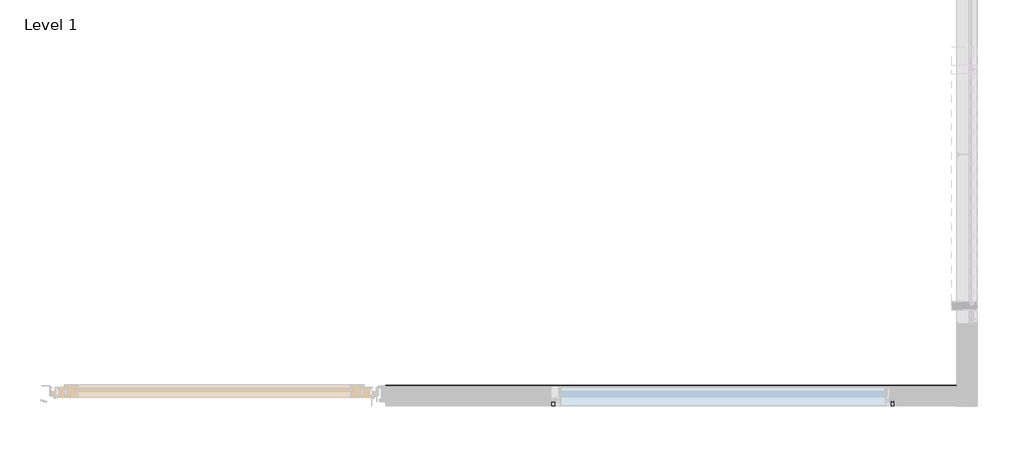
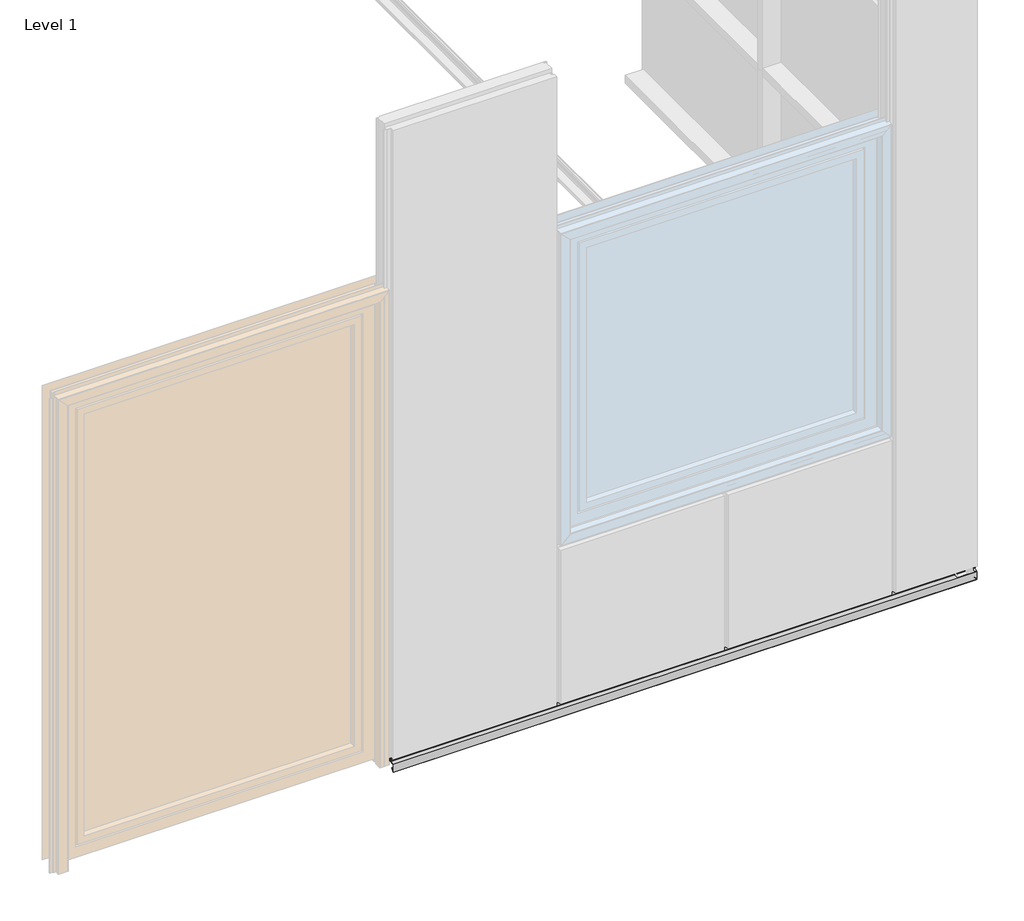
# One storey, part 7 of 8: 1 beam.
"""IFC4 building model written with IfcOpenShell, lengths in millimetres."""

import ifcopenshell
import ifcopenshell.guid

model = None  # the IFC model being written
_history = None  # IfcOwnerHistory: only IFC2X3 demands one
_inside = {}  # id of a spatial element -> (the spatial element, [elements in it])
_under = {}  # id of a project, library or spatial element -> (it, [spatial elements below it])
_declared = {}  # id of a project -> (the project, [libraries it declares])
_typed = {}  # id of a type object -> (the type object, [elements of that type])
_made_of = {}  # id of a material, layer set ... -> (it, [elements and type objects made of it])


def new_model(schema):
    """Start an empty IFC model of exactly this schema.

    Asked for "IFC4X3", IfcOpenShell would pick the latest addendum, in which some entities
    have other attributes; the version numbers below select the first issue.
    IFC2X3 requires an IfcOwnerHistory on every rooted entity: one is made here for all.
    """
    global model, _history
    if schema == "IFC4X3":
        model = ifcopenshell.file(schema_version=(4, 3, 0, 0))
    else:
        model = ifcopenshell.file(schema=schema)
    _inside.clear()
    _under.clear()
    _declared.clear()
    _typed.clear()
    _made_of.clear()
    _history = None
    if model.schema == "IFC2X3":
        org = make("IfcOrganization", Name="unknown")
        user = make(
            "IfcPersonAndOrganization",
            ThePerson=make("IfcPerson", FamilyName="unknown"),
            TheOrganization=org,
        )
        app = make(
            "IfcApplication",
            ApplicationDeveloper=org,
            Version="unknown",
            ApplicationFullName="unknown",
            ApplicationIdentifier="unknown",
        )
        _history = make(
            "IfcOwnerHistory",
            OwningUser=user,
            OwningApplication=app,
            ChangeAction="ADDED",
            CreationDate=0,
        )
    return model


def make(cls, **values):
    """One entity of the class cls with the attributes given. An attribute that is None is left unset."""
    return model.create_entity(
        cls, **{name: value for name, value in values.items() if value is not None}
    )


def rooted(cls, **values):
    """An entity with a GlobalId (a new one), such as an element, a storey or a relation."""
    return make(cls, GlobalId=ifcopenshell.guid.new(), OwnerHistory=_history, **values)


def si_unit(unit_type, name, prefix=None):
    """IfcSIUnit, for example si_unit("LENGTHUNIT", "METRE", prefix="MILLI")."""
    return make("IfcSIUnit", UnitType=unit_type, Prefix=prefix, Name=name)


def assignment(units):
    """IfcUnitAssignment: the units of a project."""
    return None if units is None else make("IfcUnitAssignment", Units=units)


def point(xyz):
    """IfcCartesianPoint."""
    return None if xyz is None else make("IfcCartesianPoint", Coordinates=xyz)


def direction(xyz):
    """IfcDirection."""
    return None if xyz is None else make("IfcDirection", DirectionRatios=xyz)


def frame(location, z_axis=None, x_axis=None):
    """IfcAxis2Placement3D, a coordinate frame: its origin and axes. An axis left out is left unset."""
    return make(
        "IfcAxis2Placement3D",
        Location=point(location),
        Axis=direction(z_axis),
        RefDirection=direction(x_axis),
    )


def origin():
    """The frame at (0, 0, 0) with its axes left unset."""
    return frame((0.0, 0.0, 0.0))


def place(relative_to, where):
    """IfcLocalPlacement: puts the frame where relative to a parent placement (None: the world)."""
    return make(
        "IfcLocalPlacement", PlacementRelTo=relative_to, RelativePlacement=where
    )


def context(
    kind, dimensions, precision=None, world=None, true_north=None, identifier=None
):
    """IfcGeometricRepresentationContext, for example the 3D "Model" context."""
    return make(
        "IfcGeometricRepresentationContext",
        ContextIdentifier=identifier,
        ContextType=kind,
        CoordinateSpaceDimension=dimensions,
        Precision=precision,
        WorldCoordinateSystem=world,
        TrueNorth=true_north,
    )


def project(units=None, contexts=None):
    """IfcProject with its units and contexts."""
    return rooted(
        "IfcProject",
        Name="project",
        RepresentationContexts=contexts,
        UnitsInContext=assignment(units),
    )


def spatial(cls, under=None, at=None, **own):
    """A site, building, storey or space (cls), placed at a placement, below another one or the project."""
    s = rooted(cls, ObjectPlacement=at, **own)
    if under is not None:
        _under.setdefault(under.id(), (under, []))[1].append(s)
    return s


def circle_curve(where, radius):
    """IfcCircle in the frame where."""
    return make("IfcCircle", Position=where, Radius=radius)


def ellipse_curve(where, semi_axis1, semi_axis2):
    """IfcEllipse in the frame where."""
    return make(
        "IfcEllipse", Position=where, SemiAxis1=semi_axis1, SemiAxis2=semi_axis2
    )


def faces_of(points, faces, orient=None, outer=None):
    """IfcFace entities. A face is a list of loops; a loop is a list of indices into points, from 0.

    orient and outer hold one flag for each loop. By default every Orientation is true, the
    first loop of a face is its IfcFaceOuterBound and the others are IfcFaceBound.
    """
    made = []
    for i, loops in enumerate(faces):
        bounds = []
        for j, loop in enumerate(loops):
            is_outer = j == 0 if outer is None else outer[i][j]
            bounds.append(
                make(
                    "IfcFaceOuterBound" if is_outer else "IfcFaceBound",
                    Bound=make("IfcPolyLoop", Polygon=[points[k] for k in loop]),
                    Orientation=True if orient is None else orient[i][j],
                )
            )
        made.append(make("IfcFace", Bounds=bounds))
    return made


def faceted_brep(points, faces, orient=None, outer=None, voids=None):
    """IfcFacetedBrep: a solid bounded by flat faces; with voids (closed shells), ...WithVoids."""
    shared = [point(p) for p in points]
    hull = make("IfcClosedShell", CfsFaces=faces_of(shared, faces, orient, outer))
    if voids is None:
        return make("IfcFacetedBrep", Outer=hull)
    return make(
        "IfcFacetedBrepWithVoids",
        Outer=hull,
        Voids=[
            make(cls, CfsFaces=faces_of(shared, fs, o, b)) for cls, fs, o, b in voids
        ],
    )


def shape(context_of_items, identifier, shape_type, items):
    """IfcShapeRepresentation: the items that make up one representation, for example the "Body"."""
    return make(
        "IfcShapeRepresentation",
        ContextOfItems=context_of_items,
        RepresentationIdentifier=identifier,
        RepresentationType=shape_type,
        Items=items,
    )


def made_of(thing, what):
    """Note that an element or type object is made of a material, layer set ...; save() writes the relation."""
    if what is not None:
        _made_of.setdefault(what.id(), (what, []))[1].append(thing)
    return thing


def element(
    cls,
    number,
    at=None,
    inside=None,
    cuts=None,
    type_object=None,
    material=None,
    context=None,
    identifier="Body",
    shape_type=None,
    held_by="IfcProductDefinitionShape",
    body=None,
    shapes=None,
    **own,
):
    """One element of the class cls, such as IfcWall. Its Tag is "e" and its number.

    at: its placement. inside: the storey or other place that contains it. cuts: it is an
    opening in that element (IfcRelVoidsElement). A single representation is given by context,
    identifier, shape_type and body (its items); several are given by shapes. held_by: the class
    of the entity that holds the representations. save() writes the other relations.
    """
    e = rooted(cls, Tag="e%d" % number, ObjectPlacement=at, **own)
    if body is not None:
        shapes = [shape(context, identifier, shape_type, body)]
    if shapes is not None:
        e.Representation = make(held_by, Representations=shapes)
    if inside is not None:
        _inside.setdefault(inside.id(), (inside, []))[1].append(e)
    if cuts is not None:
        rooted(
            "IfcRelVoidsElement", RelatingBuildingElement=cuts, RelatedOpeningElement=e
        )
    if type_object is not None:
        _typed.setdefault(type_object.id(), (type_object, []))[1].append(e)
    return made_of(e, material)


def aggregate(whole, parts):
    """IfcRelAggregates: a whole, such as a stair, and the parts it consists of."""
    return rooted("IfcRelAggregates", RelatingObject=whole, RelatedObjects=parts)


def save(model, path):
    """Write the relations noted so far, then the file.

    IfcRelAggregates (storeys below a building ...), IfcRelContainedInSpatialStructure (elements
    in a storey), IfcRelDefinesByType, IfcRelAssociatesMaterial and IfcRelDeclares: one each for
    every whole, place, type object, material and project.
    """
    for whole, parts in _under.values():
        aggregate(whole, parts)
    for where, things in _inside.values():
        rooted(
            "IfcRelContainedInSpatialStructure",
            RelatedElements=things,
            RelatingStructure=where,
        )
    for kind, things in _typed.values():
        rooted("IfcRelDefinesByType", RelatedObjects=things, RelatingType=kind)
    for what, things in _made_of.values():
        rooted("IfcRelAssociatesMaterial", RelatedObjects=things, RelatingMaterial=what)
    for by, libraries in _declared.values():
        rooted("IfcRelDeclares", RelatingContext=by, RelatedDefinitions=libraries)
    model.write(path)


def plane_surface(at):
    """IfcPlane: the flat surface through the origin of the frame at, square to its z axis."""
    return make("IfcPlane", Position=at)


def cylinder_surface(at, radius):
    """IfcCylindricalSurface: all points at the distance radius from the z axis of the frame at."""
    return make("IfcCylindricalSurface", Position=at, Radius=radius)


def advanced_brep(points, edges, surfaces, faces):
    """IfcAdvancedBrep: a solid bounded by faces that lie on surfaces and meet in shared edges.

    An edge is (start, end): straight between two places in points (the first is 0);
    or (start, end, curve); or (start, end, curve, False) where it runs against its curve.
    A face is (place in surfaces, loops), or (place, loops, False) where it looks against
    its surface's normal. A loop lists edges by number (the first is 1), with a minus sign
    where the edge is run from its end to its start. The first loop is the outer one.
    """
    corners = [point(p) for p in points]
    vertices = [make("IfcVertexPoint", VertexGeometry=c) for c in corners]
    made = []
    for start, end, *more in edges:
        made.append(
            make(
                "IfcEdgeCurve",
                EdgeStart=vertices[start],
                EdgeEnd=vertices[end],
                EdgeGeometry=more[0] if more else make("IfcPolyline", Points=[corners[start], corners[end]]),
                SameSense=more[1] if len(more) > 1 else True,
            )
        )
    hull = []
    for where, loops, *sense in faces:
        bounds = []
        for j, loop in enumerate(loops):
            ring = [make("IfcOrientedEdge", EdgeElement=made[abs(k) - 1], Orientation=k > 0) for k in loop]
            bounds.append(
                make(
                    "IfcFaceOuterBound" if j == 0 else "IfcFaceBound",
                    Bound=make("IfcEdgeLoop", EdgeList=ring),
                    Orientation=True,
                )
            )
        hull.append(make("IfcAdvancedFace", Bounds=bounds, FaceSurface=surfaces[where], SameSense=sense[0] if sense else True))
    return make("IfcAdvancedBrep", Outer=make("IfcClosedShell", CfsFaces=hull))


model = new_model("IFC4")

# Units and contexts
model_context = context("Model", 3, world=origin())
ifc_project = project(units=[si_unit("LENGTHUNIT", "METRE", prefix="MILLI")], contexts=[model_context])

# Site, building, storey
site = spatial("IfcSite", under=ifc_project)
building = spatial("IfcBuilding", under=site)
storey = spatial("IfcBuildingStorey", under=building, Name="Level 1", Elevation=0.0)

# Beam
placement = place(None, origin())
element("IfcBeam", 1, ObjectType="QO-V-02_01 Base : Base detail", at=placement, inside=storey, context=model_context, shape_type="SolidModel", body=[
    faceted_brep([(1.1864867, 8054.9, 162.7), (1.1864867, 8054.9, 137.7), (1.1864867, 7999.9, 132.8881235), (1.1864867, 7999.9, 82.8881235), (1.1864867, 8017.5776695, 100.565793), (1.1864867, 8017.0119841, 101.1314785), (1.1864867, 8000.7, 84.8194944), (1.1864867, 8000.7, 132.1550586), (1.1864867, 8055.7, 136.9669351), (1.1864867, 8055.7, 161.9), (1.1864867, 8056.9, 161.9), (1.1864867, 8056.9, 136.9), (1.1864867, 8118.9315596, 136.9), (1.1864867, 8121.4120749, 157.1021753), (1.1864867, 8120.6180379, 157.1996708), (1.1864867, 8118.2237794, 137.7), (1.1864867, 8057.7, 137.7), (1.1864867, 8057.7, 162.7), (-3488.0000003, 8054.9, 162.7), (-3488.0000003, 8057.7, 162.7), (-3488.0000003, 8057.7, 137.7), (-3488.0000003, 8118.2237794, 137.7), (-3488.0000003, 8120.6180379, 157.1996708), (-3488.0000003, 8121.4120749, 157.1021753), (-3488.0000003, 8118.9315596, 136.9), (-3488.0000003, 8056.9, 136.9), (-3488.0000003, 8056.9, 161.9), (-3488.0000003, 8055.7, 161.9), (-3488.0000003, 8055.7, 136.9669351), (-3488.0000003, 8000.7, 132.1550586), (-3488.0000003, 8000.7, 84.8194944), (-3488.0000003, 8017.0119841, 101.1314785), (-3488.0000003, 8017.5776695, 100.565793), (-3488.0000003, 7999.9, 82.8881235), (-3488.0000003, 7999.9, 132.8881235), (-3488.0000003, 8054.9, 137.7)], [[[0, 1, 2, 3, 4, 5, 6, 7, 8, 9, 10, 11, 12, 13, 14, 15, 16, 17]], [[18, 19, 20, 21, 22, 23, 24, 25, 26, 27, 28, 29, 30, 31, 32, 33, 34, 35]], [[9, 8, 28, 27]], [[10, 9, 27, 26]], [[11, 10, 26, 25]], [[12, 11, 25, 24]], [[13, 12, 24, 23]], [[14, 13, 23, 22]], [[15, 14, 22, 21]], [[16, 15, 21, 20]], [[17, 16, 20, 19]], [[0, 17, 19, 18]], [[1, 0, 18, 35]], [[2, 1, 35, 34]], [[3, 2, 34, 33]], [[4, 3, 33, 32]], [[5, 4, 32, 31]], [[6, 5, 31, 30]], [[7, 6, 30, 29]], [[8, 7, 29, 28]]]),
    faceted_brep([(0.1335928, 7999.9, 82.8881235), (-3488.0000003, 7999.9, 82.8881235), (-3488.0000003, 8017.5776695, 100.565793), (-17.5440767, 8017.5776695, 100.565793), (-3488.0000003, 8054.9, 162.7), (-3488.0000003, 8057.7, 162.7), (-3488.0000003, 8057.7, 137.7), (-3488.0000003, 8118.2237794, 137.7), (-3488.0000003, 8120.6180379, 157.1996708), (-3488.0000003, 8121.4120749, 157.1021753), (-3488.0000003, 8118.9315596, 136.9), (-3488.0000003, 8056.9, 136.9), (-3488.0000003, 8056.9, 161.9), (-3488.0000003, 8055.7, 161.9), (-3488.0000003, 8055.7, 136.9669351), (-3488.0000003, 8000.7, 132.1550586), (-3488.0000003, 8000.7, 84.8194944), (-3488.0000003, 8017.0119841, 101.1314785), (-3488.0000003, 7999.9, 132.8881235), (-3488.0000003, 8054.9, 137.7), (-57.6664072, 8057.7, 162.7), (-54.8664072, 8054.9, 162.7), (-57.6664072, 8057.7, 137.7), (-118.1901866, 8118.2237794, 137.7), (-120.5844451, 8120.6180379, 157.1996708), (-121.3784821, 8121.4120749, 157.1021753), (-118.8979668, 8118.9315596, 136.9), (-56.8664072, 8056.9, 136.9), (-56.8664072, 8056.9, 161.9), (-55.6664072, 8055.7, 161.9), (-55.6664072, 8055.7, 136.9669351), (-0.6664072, 8000.7, 132.1550586), (-0.6664072, 8000.7, 84.8194944), (-16.9783913, 8017.0119841, 101.1314785), (0.1335928, 7999.9, 132.8881235), (-54.8664072, 8054.9, 137.7)], [[[0, 1, 2, 3]], [[4, 5, 6, 7, 8, 9, 10, 11, 12, 13, 14, 15, 16, 17, 2, 1, 18, 19]], [[20, 5, 4, 21]], [[22, 6, 5, 20]], [[23, 7, 6, 22]], [[24, 8, 7, 23]], [[25, 9, 8, 24]], [[26, 10, 9, 25]], [[27, 11, 10, 26]], [[28, 12, 11, 27]], [[29, 13, 12, 28]], [[30, 14, 13, 29]], [[31, 15, 14, 30]], [[32, 16, 15, 31]], [[33, 17, 16, 32]], [[3, 2, 17, 33]], [[34, 18, 1, 0]], [[35, 19, 18, 34]], [[21, 4, 19, 35]], [[30, 29, 28, 27, 26, 25, 24, 23, 22, 20, 21, 35, 34, 0, 3, 33, 32, 31]]]),
    advanced_brep(
    [(-3488.0000003, 8034.5160805, 149.5524124), (-3488.0000003, 8025.4027713, 149.5524124), (-3488.0000003, 8025.4027713, 141.8841366), (-3488.0000003, 8024.4783623, 140.3521612), (-3488.0000003, 8023.9029396, 140.5123199), (-3488.0000003, 8023.9029396, 159.8923428), (-3488.0000003, 8024.4783623, 160.0525015), (-3488.0000003, 8025.4027713, 158.5205261), (-3488.0000003, 8025.4027713, 150.8524124), (-3488.0000003, 8034.5160805, 150.8524124), (-3488.0000003, 8034.5160805, 152.3674381), (-3488.0000003, 8035.8759407, 150.5546092), (-3488.0000003, 8036.6759407, 150.5546092), (-3488.0000003, 8036.6759407, 152.5561345), (-3488.0000003, 8034.217153, 152.5561345), (-3488.0000003, 8034.217153, 151.4879019), (-3488.0000003, 8026.4392087, 151.4879019), (-3488.0000003, 8025.9150519, 151.9872786), (-3488.0000003, 8025.9150519, 162.7010847), (-3488.0000003, 8036.090378, 162.7010847), (-3488.0000003, 8036.690378, 162.1010847), (-3488.0000003, 8036.690378, 156.562561), (-3488.0000003, 8039.5058207, 156.562561), (-3488.0000003, 8039.5058207, 159.161162), (-3488.0000003, 8043.7493822, 157.6224126), (-3488.0000003, 8040.2004498, 154.5991903), (-3488.0000003, 8040.2004498, 145.8056345), (-3488.0000003, 8043.7493822, 142.7824121), (-3488.0000003, 8039.5058207, 141.2436628), (-3488.0000003, 8039.5058207, 143.8422638), (-3488.0000003, 8036.690378, 143.8422638), (-3488.0000003, 8036.690378, 138.3037401), (-3488.0000003, 8036.090378, 137.7037401), (-3488.0000003, 8025.9150519, 137.7037401), (-3488.0000003, 8025.9150519, 148.4175462), (-3488.0000003, 8026.4392087, 148.9169229), (-3488.0000003, 8034.217153, 148.9169229), (-3488.0000003, 8034.217153, 147.8486903), (-3488.0000003, 8036.6759407, 147.8486903), (-3488.0000003, 8036.6759407, 149.8502156), (-3488.0000003, 8035.8759407, 149.8502156), (-3488.0000003, 8034.5160805, 148.0373867), (1.1864867, 8034.5160805, 149.5524124), (1.1864867, 8034.5160805, 148.0373867), (1.1864867, 8035.8759407, 149.8502156), (1.1864867, 8036.6759407, 149.8502156), (1.1864867, 8036.6759407, 147.8486903), (1.1864867, 8034.217153, 147.8486903), (1.1864867, 8034.217153, 148.9169229), (1.1864867, 8026.4392087, 148.9169229), (1.1864867, 8025.9150519, 148.4175462), (1.1864867, 8025.9150519, 137.7037401), (1.1864867, 8036.090378, 137.7037401), (1.1864867, 8036.690378, 138.3037401), (1.1864867, 8036.690378, 143.8422638), (1.1864867, 8039.5058207, 143.8422638), (1.1864867, 8039.5058207, 141.2436628), (1.1864867, 8043.7493822, 142.7824121), (1.1864867, 8040.2004498, 145.8056345), (1.1864867, 8040.2004498, 154.5991903), (1.1864867, 8043.7493822, 157.6224126), (1.1864867, 8039.5058207, 159.161162), (1.1864867, 8039.5058207, 156.562561), (1.1864867, 8036.690378, 156.562561), (1.1864867, 8036.690378, 162.1010847), (1.1864867, 8036.090378, 162.7010847), (1.1864867, 8025.9150519, 162.7010847), (1.1864867, 8025.9150519, 151.9872786), (1.1864867, 8026.4392087, 151.4879019), (1.1864867, 8034.217153, 151.4879019), (1.1864867, 8034.217153, 152.5561345), (1.1864867, 8036.6759407, 152.5561345), (1.1864867, 8036.6759407, 150.5546092), (1.1864867, 8035.8759407, 150.5546092), (1.1864867, 8034.5160805, 152.3674381), (1.1864867, 8034.5160805, 150.8524124), (1.1864867, 8025.4027713, 150.8524124), (1.1864867, 8025.4027713, 158.5205261), (1.1864867, 8024.4783623, 160.0525015), (1.1864867, 8023.9029396, 159.8923428), (1.1864867, 8023.9029396, 140.5123199), (1.1864867, 8024.4783623, 140.3521612), (1.1864867, 8025.4027713, 141.8841366), (1.1864867, 8025.4027713, 149.5524124)],
    [
        (0, 1),
        (1, 2),
        (2, 3),
        (3, 4, circle_curve(frame((-3488.0000003, 8024.2129396, 140.5123199), z_axis=(-1.0, 0.0, 0.0), x_axis=(0.0, 0.0, 1.0)), 0.31)),
        (4, 5),
        (5, 6, circle_curve(frame((-3488.0000003, 8024.2129396, 159.8923428), z_axis=(-1.0, 0.0, 0.0), x_axis=(0.0, 0.0, 1.0)), 0.31)),
        (6, 7),
        (7, 8),
        (8, 9),
        (9, 10),
        (10, 11),
        (11, 12),
        (12, 13),
        (13, 14),
        (14, 15),
        (15, 16),
        (16, 17, circle_curve(frame((-3488.0000003, 8026.4150144, 151.9872786), z_axis=(-1.0, 0.0, 0.0), x_axis=(0.0, 0.0, -1.0)), 0.4999625)),
        (17, 18),
        (18, 19),
        (19, 20, circle_curve(frame((-3488.0000003, 8036.090378, 162.1010847), z_axis=(-1.0, 0.0, 0.0), x_axis=(0.0, 0.0, -1.0)), 0.6)),
        (20, 21),
        (21, 22),
        (22, 23),
        (23, 24),
        (24, 25),
        (25, 26),
        (26, 27),
        (27, 28),
        (28, 29),
        (29, 30),
        (30, 31),
        (31, 32, circle_curve(frame((-3488.0000003, 8036.090378, 138.3037401), z_axis=(-1.0, 0.0, 0.0), x_axis=(0.0, 0.0, -1.0)), 0.6)),
        (32, 33),
        (33, 34),
        (34, 35, circle_curve(frame((-3488.0000003, 8026.4150144, 148.4175462), z_axis=(-1.0, 0.0, 0.0), x_axis=(0.0, 0.0, -1.0)), 0.4999625)),
        (35, 36),
        (36, 37),
        (37, 38),
        (38, 39),
        (39, 40),
        (40, 41),
        (41, 0),
        (42, 43),
        (43, 44),
        (44, 45),
        (45, 46),
        (46, 47),
        (47, 48),
        (48, 49),
        (49, 50, circle_curve(frame((1.1864867, 8026.4150144, 148.4175462), z_axis=(1.0, 0.0, 0.0), x_axis=(0.0, 0.0, -1.0)), 0.4999625)),
        (50, 51),
        (51, 52),
        (52, 53, circle_curve(frame((1.1864867, 8036.090378, 138.3037401), z_axis=(1.0, 0.0, 0.0), x_axis=(0.0, 0.0, -1.0)), 0.6)),
        (53, 54),
        (54, 55),
        (55, 56),
        (56, 57),
        (57, 58),
        (58, 59),
        (59, 60),
        (60, 61),
        (61, 62),
        (62, 63),
        (63, 64),
        (64, 65, circle_curve(frame((1.1864867, 8036.090378, 162.1010847), z_axis=(1.0, 0.0, 0.0), x_axis=(0.0, 0.0, -1.0)), 0.6)),
        (65, 66),
        (66, 67),
        (67, 68, circle_curve(frame((1.1864867, 8026.4150144, 151.9872786), z_axis=(1.0, 0.0, 0.0), x_axis=(0.0, 0.0, -1.0)), 0.4999625)),
        (68, 69),
        (69, 70),
        (70, 71),
        (71, 72),
        (72, 73),
        (73, 74),
        (74, 75),
        (75, 76),
        (76, 77),
        (77, 78),
        (78, 79, circle_curve(frame((1.1864867, 8024.2129396, 159.8923428), z_axis=(1.0, 0.0, 0.0), x_axis=(0.0, 0.0, 1.0)), 0.31)),
        (79, 80),
        (80, 81, circle_curve(frame((1.1864867, 8024.2129396, 140.5123199), z_axis=(1.0, 0.0, 0.0), x_axis=(0.0, 0.0, 1.0)), 0.31)),
        (81, 82),
        (82, 83),
        (83, 42),
        (0, 42),
        (83, 1),
        (82, 2),
        (81, 3),
        (80, 4),
        (79, 5),
        (78, 6),
        (77, 7),
        (76, 8),
        (75, 9),
        (74, 10),
        (73, 11),
        (72, 12),
        (71, 13),
        (70, 14),
        (69, 15),
        (68, 16),
        (67, 17),
        (66, 18),
        (65, 19),
        (64, 20),
        (63, 21),
        (62, 22),
        (61, 23),
        (60, 24),
        (59, 25),
        (58, 26),
        (57, 27),
        (56, 28),
        (55, 29),
        (54, 30),
        (53, 31),
        (52, 32),
        (51, 33),
        (50, 34),
        (49, 35),
        (48, 36),
        (47, 37),
        (46, 38),
        (45, 39),
        (44, 40),
        (43, 41),
    ],
    [
        plane_surface(frame((-3488.0000003, 7999.9, 162.7), z_axis=(-1.0, 0.0, 0.0), x_axis=(0.0, 0.0, 1.0))),
        plane_surface(frame((1.1864867, 7999.9, 162.7), z_axis=(1.0, 0.0, 0.0), x_axis=(0.0, 0.0, 1.0))),
        plane_surface(frame((-3488.0000003, 8034.5160805, 149.5524124), z_axis=(0.0, 0.0, -1.0), x_axis=(1.0, 0.0, 0.0))),
        plane_surface(frame((-3488.0000003, 8025.4027713, 149.5524124), z_axis=(0.0, 1.0, 0.0), x_axis=(1.0, 0.0, 0.0))),
        plane_surface(frame((-3488.0000003, 8025.4027713, 141.8841366), z_axis=(0.0, 0.8562022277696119, -0.5166408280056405), x_axis=(1.0, 0.0, 0.0))),
        cylinder_surface(frame((-3488.0000003, 8024.2129396, 140.5123199), z_axis=(-1.0, 0.0, 0.0), x_axis=(0.0, 0.0, 1.0)), 0.31),
        plane_surface(frame((-3488.0000003, 8023.9029396, 140.5123199), z_axis=(0.0, -1.0, 0.0), x_axis=(1.0, 0.0, 0.0))),
        cylinder_surface(frame((-3488.0000003, 8024.2129396, 159.8923428), z_axis=(-1.0, 0.0, 0.0), x_axis=(0.0, 0.0, 1.0)), 0.31),
        plane_surface(frame((-3488.0000003, 8024.4783623, 160.0525015), z_axis=(0.0, 0.8562022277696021, 0.5166408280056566), x_axis=(1.0, 0.0, 0.0))),
        plane_surface(frame((-3488.0000003, 8025.4027713, 158.5205261), z_axis=(0.0, 1.0, 0.0), x_axis=(1.0, 0.0, 0.0))),
        plane_surface(frame((-3488.0000003, 8025.4027713, 150.8524124), z_axis=(0.0, 0.0, 1.0), x_axis=(1.0, 0.0, 0.0))),
        plane_surface(frame((-3488.0000003, 8034.5160805, 150.8524124), z_axis=(0.0, -1.0, 0.0), x_axis=(1.0, 0.0, 0.0))),
        plane_surface(frame((-3488.0000003, 8034.5160805, 152.3674381), z_axis=(0.0, 0.7999494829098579, 0.6000673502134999), x_axis=(1.0, 0.0, 0.0))),
        plane_surface(frame((-3488.0000003, 8035.8759407, 150.5546092), z_axis=(0.0, 0.0, 1.0), x_axis=(1.0, 0.0, 0.0))),
        plane_surface(frame((-3488.0000003, 8036.6759407, 150.5546092), z_axis=(0.0, -1.0, 0.0), x_axis=(1.0, 0.0, 0.0))),
        plane_surface(frame((-3488.0000003, 8036.6759407, 152.5561345), z_axis=(0.0, 0.0, -1.0), x_axis=(1.0, 0.0, 0.0))),
        plane_surface(frame((-3488.0000003, 8034.217153, 152.5561345), z_axis=(0.0, 1.0, 0.0), x_axis=(1.0, 0.0, 0.0))),
        plane_surface(frame((-3488.0000003, 8034.217153, 151.4879019), z_axis=(0.0, 0.0, -1.0), x_axis=(1.0, 0.0, 0.0))),
        cylinder_surface(frame((-3488.0000003, 8026.4150144, 151.9872786), z_axis=(-1.0, 0.0, 0.0), x_axis=(0.0, 0.0, -1.0)), 0.4999625),
        plane_surface(frame((-3488.0000003, 8025.9150519, 151.9872786), z_axis=(0.0, -1.0, 0.0), x_axis=(1.0, 0.0, 0.0))),
        plane_surface(frame((-3488.0000003, 8025.9150519, 162.7010847), z_axis=(0.0, 0.0, 1.0), x_axis=(1.0, 0.0, 0.0))),
        cylinder_surface(frame((-3488.0000003, 8036.090378, 162.1010847), z_axis=(-1.0, 0.0, 0.0), x_axis=(0.0, 0.0, -1.0)), 0.6),
        plane_surface(frame((-3488.0000003, 8036.690378, 162.1010847), z_axis=(0.0, 1.0, 0.0), x_axis=(1.0, 0.0, 0.0))),
        plane_surface(frame((-3488.0000003, 8036.690378, 156.562561), z_axis=(0.0, 0.0, 1.0), x_axis=(1.0, 0.0, 0.0))),
        plane_surface(frame((-3488.0000003, 8039.5058207, 156.562561), z_axis=(0.0, -1.0, 0.0), x_axis=(1.0, 0.0, 0.0))),
        plane_surface(frame((-3488.0000003, 8039.5058207, 159.161162), z_axis=(0.0, 0.3408890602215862, 0.9401035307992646), x_axis=(1.0, 0.0, 0.0))),
        plane_surface(frame((-3488.0000003, 8043.7493822, 157.6224126), z_axis=(0.0, 0.6484736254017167, -0.7612371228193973), x_axis=(1.0, 0.0, 0.0))),
        plane_surface(frame((-3488.0000003, 8040.2004498, 154.5991903), z_axis=(0.0, 1.0, 0.0), x_axis=(1.0, 0.0, 0.0))),
        plane_surface(frame((-3488.0000003, 8040.2004498, 145.8056345), z_axis=(0.0, 0.6484736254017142, 0.7612371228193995), x_axis=(1.0, 0.0, 0.0))),
        plane_surface(frame((-3488.0000003, 8043.7493822, 142.7824121), z_axis=(0.0, 0.34088906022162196, -0.9401035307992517), x_axis=(1.0, 0.0, 0.0))),
        plane_surface(frame((-3488.0000003, 8039.5058207, 141.2436628), z_axis=(0.0, -1.0, 0.0), x_axis=(1.0, 0.0, 0.0))),
        plane_surface(frame((-3488.0000003, 8039.5058207, 143.8422638), z_axis=(0.0, 0.0, -1.0), x_axis=(1.0, 0.0, 0.0))),
        plane_surface(frame((-3488.0000003, 8036.690378, 143.8422638), z_axis=(0.0, 1.0, 0.0), x_axis=(1.0, 0.0, 0.0))),
        cylinder_surface(frame((-3488.0000003, 8036.090378, 138.3037401), z_axis=(-1.0, 0.0, 0.0), x_axis=(0.0, 0.0, -1.0)), 0.6),
        plane_surface(frame((-3488.0000003, 8036.090378, 137.7037401), z_axis=(0.0, 0.0, -1.0), x_axis=(1.0, 0.0, 0.0))),
        plane_surface(frame((-3488.0000003, 8025.9150519, 137.7037401), z_axis=(0.0, -1.0, 0.0), x_axis=(1.0, 0.0, 0.0))),
        cylinder_surface(frame((-3488.0000003, 8026.4150144, 148.4175462), z_axis=(-1.0, 0.0, 0.0), x_axis=(0.0, 0.0, -1.0)), 0.4999625),
        plane_surface(frame((-3488.0000003, 8026.4392087, 148.9169229), z_axis=(0.0, 0.0, 1.0), x_axis=(1.0, 0.0, 0.0))),
        plane_surface(frame((-3488.0000003, 8034.217153, 148.9169229), z_axis=(0.0, 1.0, 0.0), x_axis=(1.0, 0.0, 0.0))),
        plane_surface(frame((-3488.0000003, 8034.217153, 147.8486903), z_axis=(0.0, 0.0, 1.0), x_axis=(1.0, 0.0, 0.0))),
        plane_surface(frame((-3488.0000003, 8036.6759407, 147.8486903), z_axis=(0.0, -1.0, 0.0), x_axis=(1.0, 0.0, 0.0))),
        plane_surface(frame((-3488.0000003, 8036.6759407, 149.8502156), z_axis=(0.0, 0.0, -1.0), x_axis=(1.0, 0.0, 0.0))),
        plane_surface(frame((-3488.0000003, 8035.8759407, 149.8502156), z_axis=(0.0, 0.7999494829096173, -0.6000673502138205), x_axis=(1.0, 0.0, 0.0))),
        plane_surface(frame((-3488.0000003, 8034.5160805, 148.0373867), z_axis=(0.0, -1.0, 0.0), x_axis=(1.0, 0.0, 0.0))),
    ],
    [
        (0, [[1, 2, 3, 4, 5, 6, 7, 8, 9, 10, 11, 12, 13, 14, 15, 16, 17, 18, 19, 20, 21, 22, 23, 24, 25, 26, 27, 28, 29, 30, 31, 32, 33, 34, 35, 36, 37, 38, 39, 40, 41, 42]]),
        (1, [[43, 44, 45, 46, 47, 48, 49, 50, 51, 52, 53, 54, 55, 56, 57, 58, 59, 60, 61, 62, 63, 64, 65, 66, 67, 68, 69, 70, 71, 72, 73, 74, 75, 76, 77, 78, 79, 80, 81, 82, 83, 84]]),
        (2, [[-1, 85, -84, 86]]),
        (3, [[-2, -86, -83, 87]]),
        (4, [[-3, -87, -82, 88]]),
        (5, [[-4, -88, -81, 89]]),
        (6, [[-5, -89, -80, 90]]),
        (7, [[-6, -90, -79, 91]]),
        (8, [[-7, -91, -78, 92]]),
        (9, [[-8, -92, -77, 93]]),
        (10, [[-9, -93, -76, 94]]),
        (11, [[-10, -94, -75, 95]]),
        (12, [[-11, -95, -74, 96]]),
        (13, [[-12, -96, -73, 97]]),
        (14, [[-13, -97, -72, 98]]),
        (15, [[-14, -98, -71, 99]]),
        (16, [[-15, -99, -70, 100]]),
        (17, [[-16, -100, -69, 101]]),
        (18, [[-17, -101, -68, 102]]),
        (19, [[-18, -102, -67, 103]]),
        (20, [[-19, -103, -66, 104]]),
        (21, [[-20, -104, -65, 105]]),
        (22, [[-21, -105, -64, 106]]),
        (23, [[-22, -106, -63, 107]]),
        (24, [[-23, -107, -62, 108]]),
        (25, [[-24, -108, -61, 109]]),
        (26, [[-25, -109, -60, 110]]),
        (27, [[-26, -110, -59, 111]]),
        (28, [[-27, -111, -58, 112]]),
        (29, [[-28, -112, -57, 113]]),
        (30, [[-29, -113, -56, 114]]),
        (31, [[-30, -114, -55, 115]]),
        (32, [[-31, -115, -54, 116]]),
        (33, [[-32, -116, -53, 117]]),
        (34, [[-33, -117, -52, 118]]),
        (35, [[-34, -118, -51, 119]]),
        (36, [[-35, -119, -50, 120]]),
        (37, [[-36, -120, -49, 121]]),
        (38, [[-37, -121, -48, 122]]),
        (39, [[-38, -122, -47, 123]]),
        (40, [[-39, -123, -46, 124]]),
        (41, [[-40, -124, -45, 125]]),
        (42, [[-41, -125, -44, 126]]),
        (43, [[-42, -126, -43, -85]]),
    ],
),
    advanced_brep(
    [(-3488.0000003, 8034.5160805, 149.5524124), (-3488.0000003, 8025.4027713, 149.5524124), (-3488.0000003, 8025.4027713, 141.8841366), (-3488.0000003, 8024.4783623, 140.3521612), (-3488.0000003, 8023.9029396, 140.5123199), (-3488.0000003, 8023.9029396, 159.8923428), (-3488.0000003, 8024.4783623, 160.0525015), (-3488.0000003, 8025.4027713, 158.5205261), (-3488.0000003, 8025.4027713, 150.8524124), (-3488.0000003, 8034.5160805, 150.8524124), (-3488.0000003, 8034.5160805, 152.3674381), (-3488.0000003, 8035.8759407, 150.5546092), (-3488.0000003, 8036.6759407, 150.5546092), (-3488.0000003, 8036.6759407, 152.5561345), (-3488.0000003, 8034.217153, 152.5561345), (-3488.0000003, 8034.217153, 151.4879019), (-3488.0000003, 8026.4392087, 151.4879019), (-3488.0000003, 8025.9150519, 151.9872786), (-3488.0000003, 8025.9150519, 162.7010847), (-3488.0000003, 8036.090378, 162.7010847), (-3488.0000003, 8036.690378, 162.1010847), (-3488.0000003, 8036.690378, 156.562561), (-3488.0000003, 8039.5058207, 156.562561), (-3488.0000003, 8039.5058207, 159.161162), (-3488.0000003, 8043.7493822, 157.6224126), (-3488.0000003, 8040.2004498, 154.5991903), (-3488.0000003, 8040.2004498, 145.8056345), (-3488.0000003, 8043.7493822, 142.7824121), (-3488.0000003, 8039.5058207, 141.2436628), (-3488.0000003, 8039.5058207, 143.8422638), (-3488.0000003, 8036.690378, 143.8422638), (-3488.0000003, 8036.690378, 138.3037401), (-3488.0000003, 8036.090378, 137.7037401), (-3488.0000003, 8025.9150519, 137.7037401), (-3488.0000003, 8025.9150519, 148.4175462), (-3488.0000003, 8026.4392087, 148.9169229), (-3488.0000003, 8034.217153, 148.9169229), (-3488.0000003, 8034.217153, 147.8486903), (-3488.0000003, 8036.6759407, 147.8486903), (-3488.0000003, 8036.6759407, 149.8502156), (-3488.0000003, 8035.8759407, 149.8502156), (-3488.0000003, 8034.5160805, 148.0373867), (-34.4824878, 8034.5160805, 149.5524124), (-25.3691785, 8025.4027713, 149.5524124), (-25.3691785, 8025.4027713, 141.8841366), (-24.4447695, 8024.4783623, 140.3521612), (-23.8693468, 8023.9029396, 140.5123199), (-23.8693468, 8023.9029396, 159.8923428), (-24.4447695, 8024.4783623, 160.0525015), (-25.3691785, 8025.4027713, 158.5205261), (-25.3691785, 8025.4027713, 150.8524124), (-34.4824878, 8034.5160805, 150.8524124), (-34.4824878, 8034.5160805, 152.3674381), (-35.8423479, 8035.8759407, 150.5546092), (-36.6423479, 8036.6759407, 150.5546092), (-36.6423479, 8036.6759407, 152.5561345), (-34.1835602, 8034.217153, 152.5561345), (-34.1835602, 8034.217153, 151.4879019), (-26.4056159, 8026.4392087, 151.4879019), (-25.8814591, 8025.9150519, 151.9872786), (-25.8814591, 8025.9150519, 162.7010847), (-36.0567852, 8036.090378, 162.7010847), (-36.6567852, 8036.690378, 162.1010847), (-36.6567852, 8036.690378, 156.562561), (-39.4722279, 8039.5058207, 156.562561), (-39.4722279, 8039.5058207, 159.161162), (-43.7157894, 8043.7493822, 157.6224126), (-40.166857, 8040.2004498, 154.5991903), (-40.166857, 8040.2004498, 145.8056345), (-43.7157894, 8043.7493822, 142.7824121), (-39.4722279, 8039.5058207, 141.2436628), (-39.4722279, 8039.5058207, 143.8422638), (-36.6567852, 8036.690378, 143.8422638), (-36.6567852, 8036.690378, 138.3037401), (-36.0567852, 8036.090378, 137.7037401), (-25.8814591, 8025.9150519, 137.7037401), (-25.8814591, 8025.9150519, 148.4175462), (-26.4056159, 8026.4392087, 148.9169229), (-34.1835602, 8034.217153, 148.9169229), (-34.1835602, 8034.217153, 147.8486903), (-36.6423479, 8036.6759407, 147.8486903), (-36.6423479, 8036.6759407, 149.8502156), (-35.8423479, 8035.8759407, 149.8502156), (-34.4824878, 8034.5160805, 148.0373867)],
    [
        (0, 1),
        (1, 2),
        (2, 3),
        (3, 4, circle_curve(frame((-3488.0000003, 8024.2129396, 140.5123199), z_axis=(-1.0, 0.0, 0.0), x_axis=(0.0, 0.0, 1.0)), 0.31)),
        (4, 5),
        (5, 6, circle_curve(frame((-3488.0000003, 8024.2129396, 159.8923428), z_axis=(-1.0, 0.0, 0.0), x_axis=(0.0, 0.0, 1.0)), 0.31)),
        (6, 7),
        (7, 8),
        (8, 9),
        (9, 10),
        (10, 11),
        (11, 12),
        (12, 13),
        (13, 14),
        (14, 15),
        (15, 16),
        (16, 17, circle_curve(frame((-3488.0000003, 8026.4150144, 151.9872786), z_axis=(-1.0, 0.0, 0.0), x_axis=(0.0, 0.0, -1.0)), 0.4999625)),
        (17, 18),
        (18, 19),
        (19, 20, circle_curve(frame((-3488.0000003, 8036.090378, 162.1010847), z_axis=(-1.0, 0.0, 0.0), x_axis=(0.0, 0.0, -1.0)), 0.6)),
        (20, 21),
        (21, 22),
        (22, 23),
        (23, 24),
        (24, 25),
        (25, 26),
        (26, 27),
        (27, 28),
        (28, 29),
        (29, 30),
        (30, 31),
        (31, 32, circle_curve(frame((-3488.0000003, 8036.090378, 138.3037401), z_axis=(-1.0, 0.0, 0.0), x_axis=(0.0, 0.0, -1.0)), 0.6)),
        (32, 33),
        (33, 34),
        (34, 35, circle_curve(frame((-3488.0000003, 8026.4150144, 148.4175462), z_axis=(-1.0, 0.0, 0.0), x_axis=(0.0, 0.0, -1.0)), 0.4999625)),
        (35, 36),
        (36, 37),
        (37, 38),
        (38, 39),
        (39, 40),
        (40, 41),
        (41, 0),
        (0, 42),
        (42, 43),
        (43, 1),
        (43, 44),
        (44, 2),
        (44, 45),
        (45, 3),
        (45, 46, ellipse_curve(frame((-24.1793468, 8024.2129396, 140.5123199), z_axis=(-0.7071067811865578, -0.7071067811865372, 0.0), x_axis=(-0.7071067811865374, 0.7071067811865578, 0.0)), 0.4384062, 0.31)),
        (46, 4),
        (46, 47),
        (47, 5),
        (47, 48, ellipse_curve(frame((-24.1793468, 8024.2129396, 159.8923428), z_axis=(-0.7071067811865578, -0.7071067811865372, 0.0), x_axis=(-0.7071067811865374, 0.7071067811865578, 0.0)), 0.4384062, 0.31)),
        (48, 6),
        (48, 49),
        (49, 7),
        (49, 50),
        (50, 8),
        (50, 51),
        (51, 9),
        (51, 52),
        (52, 10),
        (52, 53),
        (53, 11),
        (53, 54),
        (54, 12),
        (54, 55),
        (55, 13),
        (55, 56),
        (56, 14),
        (56, 57),
        (57, 15),
        (57, 58),
        (58, 16),
        (58, 59, ellipse_curve(frame((-26.3814216, 8026.4150144, 151.9872786), z_axis=(-0.7071067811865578, -0.7071067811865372, 0.0), x_axis=(-0.7071067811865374, 0.7071067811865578, 0.0)), 0.7070537, 0.4999625)),
        (59, 17),
        (59, 60),
        (60, 18),
        (60, 61),
        (61, 19),
        (61, 62, ellipse_curve(frame((-36.0567852, 8036.090378, 162.1010847), z_axis=(-0.7071067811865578, -0.7071067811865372, 0.0), x_axis=(-0.7071067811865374, 0.7071067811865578, 0.0)), 0.8485281, 0.6)),
        (62, 20),
        (62, 63),
        (63, 21),
        (63, 64),
        (64, 22),
        (64, 65),
        (65, 23),
        (65, 66),
        (66, 24),
        (66, 67),
        (67, 25),
        (67, 68),
        (68, 26),
        (68, 69),
        (69, 27),
        (69, 70),
        (70, 28),
        (70, 71),
        (71, 29),
        (71, 72),
        (72, 30),
        (72, 73),
        (73, 31),
        (73, 74, ellipse_curve(frame((-36.0567852, 8036.090378, 138.3037401), z_axis=(-0.7071067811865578, -0.7071067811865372, 0.0), x_axis=(-0.7071067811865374, 0.7071067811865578, 0.0)), 0.8485281, 0.6)),
        (74, 32),
        (74, 75),
        (75, 33),
        (75, 76),
        (76, 34),
        (76, 77, ellipse_curve(frame((-26.3814216, 8026.4150144, 148.4175462), z_axis=(-0.7071067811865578, -0.7071067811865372, 0.0), x_axis=(-0.7071067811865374, 0.7071067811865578, 0.0)), 0.7070537, 0.4999625)),
        (77, 35),
        (77, 78),
        (78, 36),
        (78, 79),
        (79, 37),
        (79, 80),
        (80, 38),
        (80, 81),
        (81, 39),
        (81, 82),
        (82, 40),
        (82, 83),
        (83, 41),
        (83, 42),
    ],
    [
        plane_surface(frame((-3488.0000003, 7999.9, 162.7), z_axis=(-1.0, 0.0, 0.0), x_axis=(0.0, 0.0, 1.0))),
        plane_surface(frame((-3488.0000003, 8034.5160805, 149.5524124), z_axis=(0.0, 0.0, -1.0), x_axis=(1.0, 0.0, 0.0))),
        plane_surface(frame((-3488.0000003, 8025.4027713, 149.5524124), z_axis=(0.0, 1.0, 0.0), x_axis=(1.0, 0.0, 0.0))),
        plane_surface(frame((-3488.0000003, 8025.4027713, 141.8841366), z_axis=(0.0, 0.8562022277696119, -0.5166408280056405), x_axis=(1.0, 0.0, 0.0))),
        cylinder_surface(frame((-3488.0000003, 8024.2129396, 140.5123199), z_axis=(-1.0, 0.0, 0.0), x_axis=(0.0, 0.0, 1.0)), 0.31),
        plane_surface(frame((-3488.0000003, 8023.9029396, 140.5123199), z_axis=(0.0, -1.0, 0.0), x_axis=(1.0, 0.0, 0.0))),
        cylinder_surface(frame((-3488.0000003, 8024.2129396, 159.8923428), z_axis=(-1.0, 0.0, 0.0), x_axis=(0.0, 0.0, 1.0)), 0.31),
        plane_surface(frame((-3488.0000003, 8024.4783623, 160.0525015), z_axis=(0.0, 0.8562022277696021, 0.5166408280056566), x_axis=(1.0, 0.0, 0.0))),
        plane_surface(frame((-3488.0000003, 8025.4027713, 158.5205261), z_axis=(0.0, 1.0, 0.0), x_axis=(1.0, 0.0, 0.0))),
        plane_surface(frame((-3488.0000003, 8025.4027713, 150.8524124), z_axis=(0.0, 0.0, 1.0), x_axis=(1.0, 0.0, 0.0))),
        plane_surface(frame((-3488.0000003, 8034.5160805, 150.8524124), z_axis=(0.0, -1.0, 0.0), x_axis=(1.0, 0.0, 0.0))),
        plane_surface(frame((-3488.0000003, 8034.5160805, 152.3674381), z_axis=(0.0, 0.7999494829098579, 0.6000673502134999), x_axis=(1.0, 0.0, 0.0))),
        plane_surface(frame((-3488.0000003, 8035.8759407, 150.5546092), z_axis=(0.0, 0.0, 1.0), x_axis=(1.0, 0.0, 0.0))),
        plane_surface(frame((-3488.0000003, 8036.6759407, 150.5546092), z_axis=(0.0, -1.0, 0.0), x_axis=(1.0, 0.0, 0.0))),
        plane_surface(frame((-3488.0000003, 8036.6759407, 152.5561345), z_axis=(0.0, 0.0, -1.0), x_axis=(1.0, 0.0, 0.0))),
        plane_surface(frame((-3488.0000003, 8034.217153, 152.5561345), z_axis=(0.0, 1.0, 0.0), x_axis=(1.0, 0.0, 0.0))),
        plane_surface(frame((-3488.0000003, 8034.217153, 151.4879019), z_axis=(0.0, 0.0, -1.0), x_axis=(1.0, 0.0, 0.0))),
        cylinder_surface(frame((-3488.0000003, 8026.4150144, 151.9872786), z_axis=(-1.0, 0.0, 0.0), x_axis=(0.0, 0.0, -1.0)), 0.4999625),
        plane_surface(frame((-3488.0000003, 8025.9150519, 151.9872786), z_axis=(0.0, -1.0, 0.0), x_axis=(1.0, 0.0, 0.0))),
        plane_surface(frame((-3488.0000003, 8025.9150519, 162.7010847), z_axis=(0.0, 0.0, 1.0), x_axis=(1.0, 0.0, 0.0))),
        cylinder_surface(frame((-3488.0000003, 8036.090378, 162.1010847), z_axis=(-1.0, 0.0, 0.0), x_axis=(0.0, 0.0, -1.0)), 0.6),
        plane_surface(frame((-3488.0000003, 8036.690378, 162.1010847), z_axis=(0.0, 1.0, 0.0), x_axis=(1.0, 0.0, 0.0))),
        plane_surface(frame((-3488.0000003, 8036.690378, 156.562561), z_axis=(0.0, 0.0, 1.0), x_axis=(1.0, 0.0, 0.0))),
        plane_surface(frame((-3488.0000003, 8039.5058207, 156.562561), z_axis=(0.0, -1.0, 0.0), x_axis=(1.0, 0.0, 0.0))),
        plane_surface(frame((-3488.0000003, 8039.5058207, 159.161162), z_axis=(0.0, 0.3408890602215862, 0.9401035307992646), x_axis=(1.0, 0.0, 0.0))),
        plane_surface(frame((-3488.0000003, 8043.7493822, 157.6224126), z_axis=(0.0, 0.6484736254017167, -0.7612371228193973), x_axis=(1.0, 0.0, 0.0))),
        plane_surface(frame((-3488.0000003, 8040.2004498, 154.5991903), z_axis=(0.0, 1.0, 0.0), x_axis=(1.0, 0.0, 0.0))),
        plane_surface(frame((-3488.0000003, 8040.2004498, 145.8056345), z_axis=(0.0, 0.6484736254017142, 0.7612371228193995), x_axis=(1.0, 0.0, 0.0))),
        plane_surface(frame((-3488.0000003, 8043.7493822, 142.7824121), z_axis=(0.0, 0.34088906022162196, -0.9401035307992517), x_axis=(1.0, 0.0, 0.0))),
        plane_surface(frame((-3488.0000003, 8039.5058207, 141.2436628), z_axis=(0.0, -1.0, 0.0), x_axis=(1.0, 0.0, 0.0))),
        plane_surface(frame((-3488.0000003, 8039.5058207, 143.8422638), z_axis=(0.0, 0.0, -1.0), x_axis=(1.0, 0.0, 0.0))),
        plane_surface(frame((-3488.0000003, 8036.690378, 143.8422638), z_axis=(0.0, 1.0, 0.0), x_axis=(1.0, 0.0, 0.0))),
        cylinder_surface(frame((-3488.0000003, 8036.090378, 138.3037401), z_axis=(-1.0, 0.0, 0.0), x_axis=(0.0, 0.0, -1.0)), 0.6),
        plane_surface(frame((-3488.0000003, 8036.090378, 137.7037401), z_axis=(0.0, 0.0, -1.0), x_axis=(1.0, 0.0, 0.0))),
        plane_surface(frame((-3488.0000003, 8025.9150519, 137.7037401), z_axis=(0.0, -1.0, 0.0), x_axis=(1.0, 0.0, 0.0))),
        cylinder_surface(frame((-3488.0000003, 8026.4150144, 148.4175462), z_axis=(-1.0, 0.0, 0.0), x_axis=(0.0, 0.0, -1.0)), 0.4999625),
        plane_surface(frame((-3488.0000003, 8026.4392087, 148.9169229), z_axis=(0.0, 0.0, 1.0), x_axis=(1.0, 0.0, 0.0))),
        plane_surface(frame((-3488.0000003, 8034.217153, 148.9169229), z_axis=(0.0, 1.0, 0.0), x_axis=(1.0, 0.0, 0.0))),
        plane_surface(frame((-3488.0000003, 8034.217153, 147.8486903), z_axis=(0.0, 0.0, 1.0), x_axis=(1.0, 0.0, 0.0))),
        plane_surface(frame((-3488.0000003, 8036.6759407, 147.8486903), z_axis=(0.0, -1.0, 0.0), x_axis=(1.0, 0.0, 0.0))),
        plane_surface(frame((-3488.0000003, 8036.6759407, 149.8502156), z_axis=(0.0, 0.0, -1.0), x_axis=(1.0, 0.0, 0.0))),
        plane_surface(frame((-3488.0000003, 8035.8759407, 149.8502156), z_axis=(0.0, 0.7999494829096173, -0.6000673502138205), x_axis=(1.0, 0.0, 0.0))),
        plane_surface(frame((-3488.0000003, 8034.5160805, 148.0373867), z_axis=(0.0, -1.0, 0.0), x_axis=(1.0, 0.0, 0.0))),
        plane_surface(frame((0.0, 8000.0335928, 100000.0), z_axis=(0.7071067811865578, 0.7071067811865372, 0.0), x_axis=(-0.7071067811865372, 0.7071067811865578, 0.0))),
    ],
    [
        (0, [[1, 2, 3, 4, 5, 6, 7, 8, 9, 10, 11, 12, 13, 14, 15, 16, 17, 18, 19, 20, 21, 22, 23, 24, 25, 26, 27, 28, 29, 30, 31, 32, 33, 34, 35, 36, 37, 38, 39, 40, 41, 42]]),
        (1, [[-1, 43, 44, 45]]),
        (2, [[-2, -45, 46, 47]]),
        (3, [[-3, -47, 48, 49]]),
        (4, [[-4, -49, 50, 51]]),
        (5, [[-5, -51, 52, 53]]),
        (6, [[-6, -53, 54, 55]]),
        (7, [[-7, -55, 56, 57]]),
        (8, [[-8, -57, 58, 59]]),
        (9, [[-9, -59, 60, 61]]),
        (10, [[-10, -61, 62, 63]]),
        (11, [[-11, -63, 64, 65]]),
        (12, [[-12, -65, 66, 67]]),
        (13, [[-13, -67, 68, 69]]),
        (14, [[-14, -69, 70, 71]]),
        (15, [[-15, -71, 72, 73]]),
        (16, [[-16, -73, 74, 75]]),
        (17, [[-17, -75, 76, 77]]),
        (18, [[-18, -77, 78, 79]]),
        (19, [[-19, -79, 80, 81]]),
        (20, [[-20, -81, 82, 83]]),
        (21, [[-21, -83, 84, 85]]),
        (22, [[-22, -85, 86, 87]]),
        (23, [[-23, -87, 88, 89]]),
        (24, [[-24, -89, 90, 91]]),
        (25, [[-25, -91, 92, 93]]),
        (26, [[-26, -93, 94, 95]]),
        (27, [[-27, -95, 96, 97]]),
        (28, [[-28, -97, 98, 99]]),
        (29, [[-29, -99, 100, 101]]),
        (30, [[-30, -101, 102, 103]]),
        (31, [[-31, -103, 104, 105]]),
        (32, [[-32, -105, 106, 107]]),
        (33, [[-33, -107, 108, 109]]),
        (34, [[-34, -109, 110, 111]]),
        (35, [[-35, -111, 112, 113]]),
        (36, [[-36, -113, 114, 115]]),
        (37, [[-37, -115, 116, 117]]),
        (38, [[-38, -117, 118, 119]]),
        (39, [[-39, -119, 120, 121]]),
        (40, [[-40, -121, 122, 123]]),
        (41, [[-41, -123, 124, 125]]),
        (42, [[-42, -125, 126, -43]]),
        (43, [[-44, -126, -124, -122, -120, -118, -116, -114, -112, -110, -108, -106, -104, -102, -100, -98, -96, -94, -92, -90, -88, -86, -84, -82, -80, -78, -76, -74, -72, -70, -68, -66, -64, -62, -60, -58, -56, -54, -52, -50, -48, -46]]),
    ],
),
])

save(model, "model.ifc")
